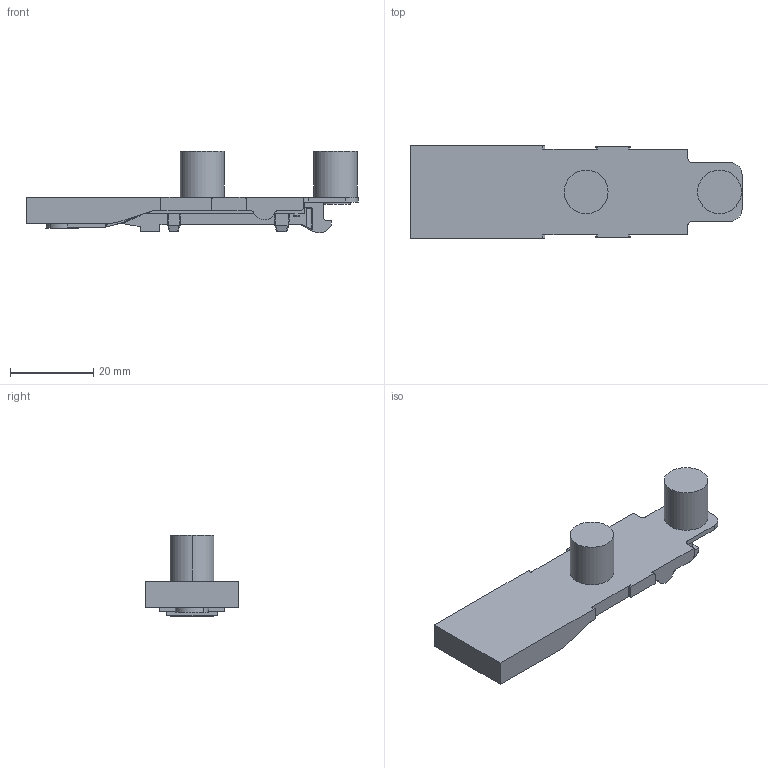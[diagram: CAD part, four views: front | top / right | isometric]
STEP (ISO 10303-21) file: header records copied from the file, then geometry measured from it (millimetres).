
FILE_DESCRIPTION (( 'STEP AP203' ), '1' );
FILE_NAME ('81H0MYQA.STEP', '2024-07-27T09:15:43', ( '微软用户' ), ( '微软中国' ), 'SwSTEP 2.0', 'SolidWorks 2021', '' );
FILE_SCHEMA (( 'CONFIG_CONTROL_DESIGN' ));
Length unit declared in the file: millimetre
Products named in the file (1): 81H0MYQA
Bounding box: 79.7 x 22.4 x 19.5 mm (x, y, z)
Volume: 10834.6 mm3; surface area: 5555.6 mm2
Topology: 1 solids, 1 shells, 519 faces, 1364 edges, 807 vertices
Faces by surface type: cylinder 204, plane 121, bspline 81, torus 72, sphere 41
Entity records: 17148 total; most frequent: CARTESIAN_POINT 5141, ORIENTED_EDGE 2638, DIRECTION 2398, EDGE_CURVE 1319, AXIS2_PLACEMENT_3D 910, VERTEX_POINT 807, LINE 578, VECTOR 578
